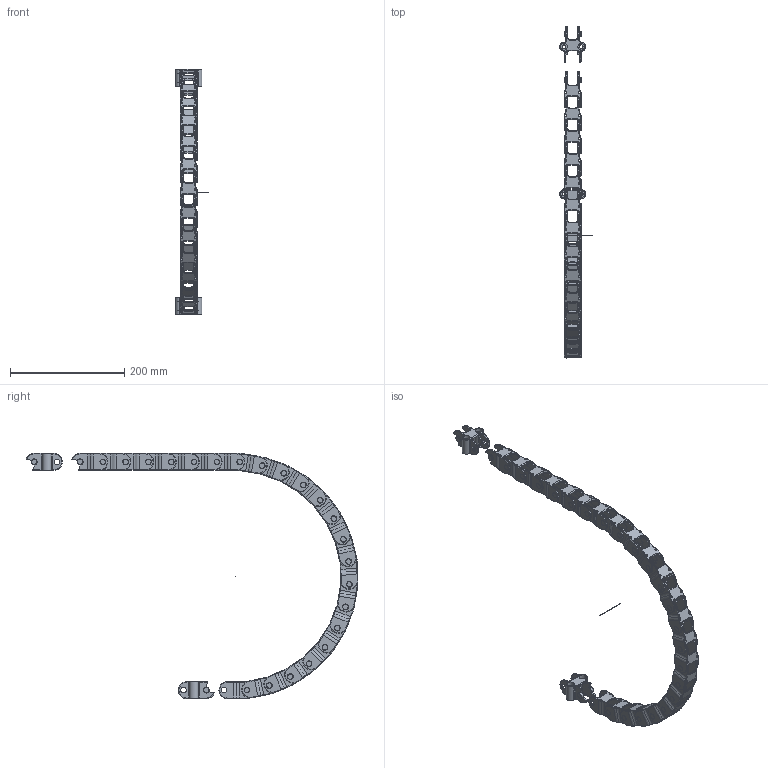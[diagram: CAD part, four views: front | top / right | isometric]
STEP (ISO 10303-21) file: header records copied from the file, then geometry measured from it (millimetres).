
FILE_DESCRIPTION((''),'2;1');
FILE_NAME('C:\Uebbing\PARAMETERKETTEN\KOLIBRI\Kol_30_030_3\KOLIBRI 30_030_3_R200.stp','2012-03-02T13:27:33',('Uebbing'),(''),'Autodesk Inventor 10','Autodesk Inventor 10','');
FILE_SCHEMA(('AUTOMOTIVE_DESIGN { 1 0 10303 214 1 1 1 1 }'));
Length unit declared in the file: millimetre
Products named in the file (4): KOLIBRI 30_030_3_PARAMETRISCH; Kol_30_030_3; Achse; Kol_30_030_3 K Anschluss
Assembly tree (26 placements, depth 2):
  KOLIBRI 30_030_3_PARAMETRISCH
    Kol_30_030_3  x23
    Achse
    Kol_30_030_3 K Anschluss  x2
Bounding box: 58.1 x 581.6 x 430 mm (x, y, z)
Volume: 325297.7 mm3; surface area: 242358.3 mm2
Topology: 26 solids, 26 shells, 2968 faces, 8171 edges, 5121 vertices
Faces by surface type: bspline 1031, cylinder 750, torus 642, plane 545
Full cylindrical faces by diameter (mm): 1 x1, 6.5 x4, 9.95 x25, 10.05 x25, 12 x8
Entity records: 13873 total; most frequent: CARTESIAN_POINT 7573, ORIENTED_EDGE 1316, DIRECTION 1262, EDGE_CURVE 658, AXIS2_PLACEMENT_3D 524, VERTEX_POINT 426, CIRCLE 292, EDGE_LOOP 292
